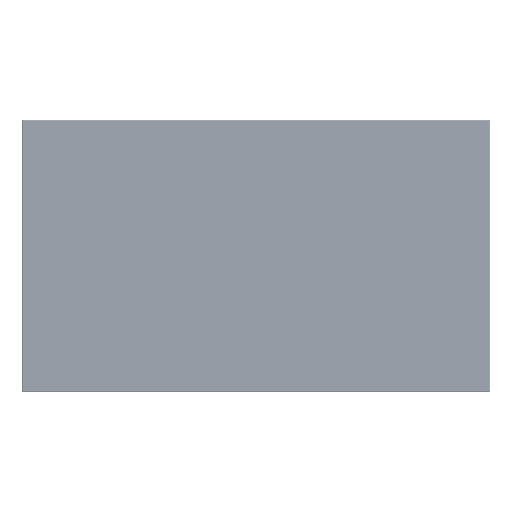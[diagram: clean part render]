
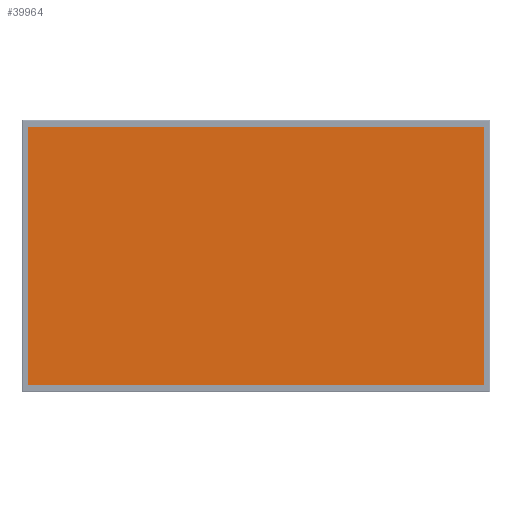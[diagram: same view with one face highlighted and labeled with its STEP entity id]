
A CAD part, top view. The second image highlights one B-rep face of the part: STEP entity #39964.
In plain terms, the highlighted planar face has unit normal (0, 0, 1).
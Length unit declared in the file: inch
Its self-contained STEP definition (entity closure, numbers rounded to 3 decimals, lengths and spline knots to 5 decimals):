
#2813 = ORIENTED_EDGE ( 'NONE', *, *, #57051, .F. ) ;
#2814 = ORIENTED_EDGE ( 'NONE', *, *, #61148, .F. ) ;
#2815 = ORIENTED_EDGE ( 'NONE', *, *, #61152, .T. ) ;
#2816 = ORIENTED_EDGE ( 'NONE', *, *, #61149, .T. ) ;
#18053 = CARTESIAN_POINT ( 'NONE',  ( -30.34449, 0., -0.00197 ) ) ;
#18059 = DIRECTION ( 'NONE',  ( 0., 1., 0. ) ) ;
#29962 = CARTESIAN_POINT ( 'NONE',  ( 30.34449, -17.15157, -0.00197 ) ) ;
#29971 = CARTESIAN_POINT ( 'NONE',  ( -30.34449, 17.15157, -0.00197 ) ) ;
#29984 = CARTESIAN_POINT ( 'NONE',  ( -30.34449, -17.15157, -0.00197 ) ) ;
#30096 = CARTESIAN_POINT ( 'NONE',  ( 30.34449, 17.15157, -0.00197 ) ) ;
#39964 = ADVANCED_FACE ( 'NONE', ( #64290 ), #67100, .T. ) ;
#49621 = EDGE_LOOP ( 'NONE', ( #2813, #2814, #2815, #2816 ) ) ;
#57051 = EDGE_CURVE ( 'NONE', #107897, #107889, #64922, .T. ) ;
#61148 = EDGE_CURVE ( 'NONE', #107882, #107897, #92707, .T. ) ;
#61149 = EDGE_CURVE ( 'NONE', #108029, #107889, #92709, .T. ) ;
#61152 = EDGE_CURVE ( 'NONE', #107882, #108029, #92717, .T. ) ;
#64290 = FACE_OUTER_BOUND ( 'NONE', #49621, .T. ) ;
#64922 = LINE ( 'NONE', #18053, #64931 ) ;
#64931 = VECTOR ( 'NONE', #18059, 39.37008 ) ;
#67095 = CARTESIAN_POINT ( 'NONE',  ( 0., 0., -0.00197 ) ) ;
#67100 = PLANE ( 'NONE',  #93040 ) ;
#67104 = DIRECTION ( 'NONE',  ( 0., 0., 1. ) ) ;
#67106 = DIRECTION ( 'NONE',  ( 1., 0., 0. ) ) ;
#87515 = CARTESIAN_POINT ( 'NONE',  ( 0., -17.15157, -0.00197 ) ) ;
#87516 = DIRECTION ( 'NONE',  ( -1., 0., 0. ) ) ;
#87517 = CARTESIAN_POINT ( 'NONE',  ( 0., 17.15157, -0.00197 ) ) ;
#87519 = DIRECTION ( 'NONE',  ( -1., 0., 0. ) ) ;
#87528 = CARTESIAN_POINT ( 'NONE',  ( 30.34449, 0., -0.00197 ) ) ;
#87529 = DIRECTION ( 'NONE',  ( 0., 1., 0. ) ) ;
#92707 = LINE ( 'NONE', #87515, #92711 ) ;
#92709 = LINE ( 'NONE', #87517, #92714 ) ;
#92711 = VECTOR ( 'NONE', #87516, 39.37008 ) ;
#92714 = VECTOR ( 'NONE', #87519, 39.37008 ) ;
#92717 = LINE ( 'NONE', #87528, #92720 ) ;
#92720 = VECTOR ( 'NONE', #87529, 39.37008 ) ;
#93040 = AXIS2_PLACEMENT_3D ( 'NONE', #67095, #67104, #67106 ) ;
#107882 = VERTEX_POINT ( 'NONE', #29962 ) ;
#107889 = VERTEX_POINT ( 'NONE', #29971 ) ;
#107897 = VERTEX_POINT ( 'NONE', #29984 ) ;
#108029 = VERTEX_POINT ( 'NONE', #30096 ) ;
